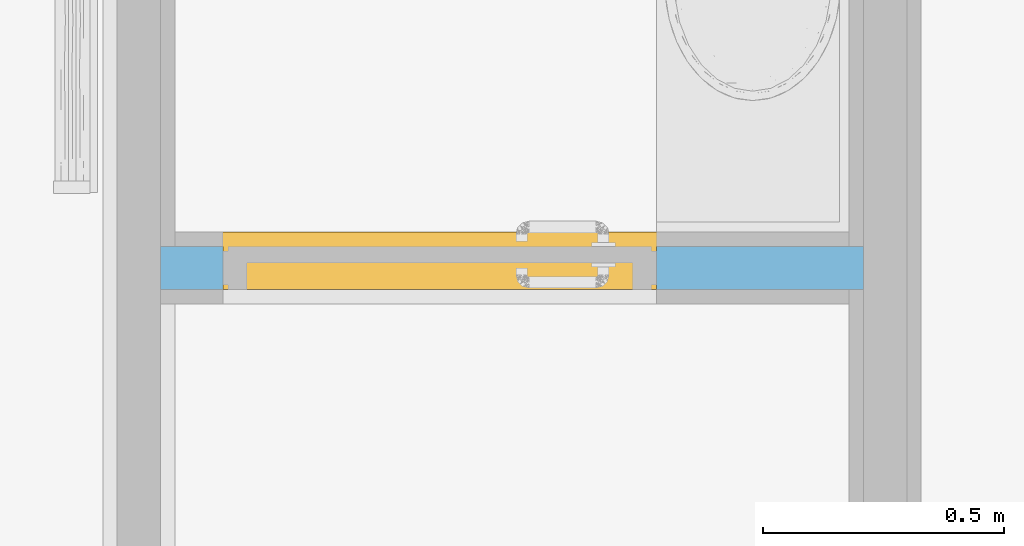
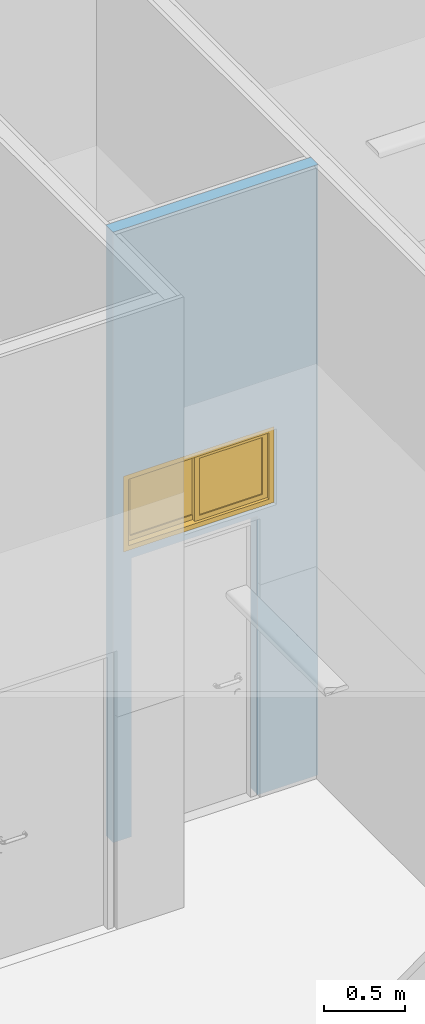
# One storey, part 23 of 155: 1 window, 2 openings, plus 1 element that does not belong to this part.
"""IFC2X3 building model written with IfcOpenShell, lengths in metres."""

from ifc_helpers import new_model, entity, si_unit, converted_unit, derived_unit, direction, frame, frame_2d, origin, origin_2d_with_axis, place, context, subcontext, project, spatial, polyline, rectangle, outline, extrude, source, transform, mapped, material, material_list, layer, layer_set, layer_usage, type_object, type_shapes, element, fill, save


model = new_model("IFC2X3")

# Units and contexts
model_context = context("Model", 3, precision=1e-05, world=origin(), true_north=direction((6.12303176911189e-17, 1.0)))
body_context = subcontext(model_context, "Body", "Model", "MODEL_VIEW")
ifc_project = project(units=[si_unit("LENGTHUNIT", "METRE"), si_unit("AREAUNIT", "SQUARE_METRE"), si_unit("VOLUMEUNIT", "CUBIC_METRE"), converted_unit("PLANEANGLEUNIT", "DEGREE", entity("IfcRatioMeasure", 0.0174532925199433), si_unit("PLANEANGLEUNIT", "RADIAN"), dimensions=[0, 0, 0, 0, 0, 0, 0]), si_unit("MASSUNIT", "GRAM", prefix="KILO"), derived_unit("MASSDENSITYUNIT", [(si_unit("MASSUNIT", "GRAM", prefix="KILO"), 1), (si_unit("LENGTHUNIT", "METRE"), -3)]), si_unit("TIMEUNIT", "SECOND"), si_unit("FREQUENCYUNIT", "HERTZ"), si_unit("THERMODYNAMICTEMPERATUREUNIT", "DEGREE_CELSIUS"), derived_unit("THERMALTRANSMITTANCEUNIT", [(si_unit("MASSUNIT", "GRAM", prefix="KILO"), 1), (si_unit("THERMODYNAMICTEMPERATUREUNIT", "KELVIN"), -1), (si_unit("TIMEUNIT", "SECOND"), -3)]), derived_unit("VOLUMETRICFLOWRATEUNIT", [(si_unit("LENGTHUNIT", "METRE"), 3), (si_unit("TIMEUNIT", "SECOND"), -1)]), si_unit("ELECTRICCURRENTUNIT", "AMPERE"), si_unit("ELECTRICVOLTAGEUNIT", "VOLT"), si_unit("POWERUNIT", "WATT"), si_unit("FORCEUNIT", "NEWTON", prefix="KILO"), si_unit("ILLUMINANCEUNIT", "LUX"), si_unit("LUMINOUSFLUXUNIT", "LUMEN"), si_unit("LUMINOUSINTENSITYUNIT", "CANDELA"), derived_unit("USERDEFINED", [(si_unit("MASSUNIT", "GRAM", prefix="KILO"), -1), (si_unit("LENGTHUNIT", "METRE"), -2), (si_unit("TIMEUNIT", "SECOND"), 3), (si_unit("LUMINOUSFLUXUNIT", "LUMEN"), 1)]), derived_unit("LINEARVELOCITYUNIT", [(si_unit("LENGTHUNIT", "METRE"), 1), (si_unit("TIMEUNIT", "SECOND"), -1)]), si_unit("PRESSUREUNIT", "PASCAL"), derived_unit("USERDEFINED", [(si_unit("LENGTHUNIT", "METRE"), -2), (si_unit("MASSUNIT", "GRAM", prefix="KILO"), 1), (si_unit("TIMEUNIT", "SECOND"), -2)])], contexts=[model_context])

# Site, building, storey
site_placement = place(None, frame((26.9889013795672, -17.5624287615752, 0.0)))
site = spatial("IfcSite", under=ifc_project, at=site_placement, Name="Default", CompositionType="ELEMENT")
building_placement = place(site_placement, origin())
building = spatial("IfcBuilding", under=site, at=building_placement, Name="C. C. L. Monsenhor Antônio Sampaio", CompositionType="ELEMENT")
storey_placement = place(building_placement, frame((0.0, 0.0, 1.19999999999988)))
storey = spatial("IfcBuildingStorey", under=building, at=storey_placement, Name="Nível 1.2", CompositionType="ELEMENT", Elevation=1.19999999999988)

# Wall, openings, window
ifc_material_1 = material(Name="ALVENARIA")
ifc_layer = layer(ifc_material_1, 0.09)
ifc_layer_set = layer_set([ifc_layer], Name="Parede básica:ENucleo parede 15cm")
ifc_layer_usage = layer_usage(ifc_layer_set, "AXIS2", "POSITIVE", -0.045)
wall_type = type_object("IfcWallType", Name="Parede básica:ENucleo parede 15cm", PredefinedType="STANDARD", material=ifc_layer_set)
wall_placement = place(storey_placement, frame((2.29943400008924, -31.0880663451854, 0.0)))
wall = element("IfcWallStandardCase", 1, at=wall_placement, inside=storey, type_object=wall_type, material=ifc_layer_usage, Name="Parede básica:ENucleo parede 15cm", ObjectType="Parede básica:ENucleo parede 15cm", context=body_context, shape_type="SweptSolid", body=[
    extrude(rectangle(XDim=1.46001370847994, YDim=0.0899999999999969, at=frame_2d((0.730006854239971, 0.0), x_axis=(-1.0, 0.0))), origin(), (0.0, 0.0, 1.0), 4.60000000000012),
])
opening_1_placement = place(wall_placement, frame((0.129999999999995, -0.0450000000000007, 0.0)))
element("IfcOpeningElement", 2, at=opening_1_placement, cuts=wall, Name="Porta levantamento:90 x 211 AZUL:1", ObjectType="Opening", context=body_context, shape_type="SweptSolid", body=[
    extrude(rectangle(XDim=2.09999999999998, YDim=0.9, at=frame_2d((1.04999999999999, 0.45), x_axis=(1.0, 0.0))), frame((0.0, 0.0, 0.0), z_axis=(0.0, 1.0, 0.0), x_axis=(0.0, 0.0, 1.0)), (0.0, 0.0, 1.0), 0.09),
])
opening_2_placement = place(wall_placement, frame((0.0750068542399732, -0.0449999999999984, 2.165)))
opening_2 = element("IfcOpeningElement", 3, at=opening_2_placement, cuts=wall, Name="Janela 100x50:100 x 51.:1", ObjectType="Opening", context=body_context, shape_type="SweptSolid", body=[
    extrude(rectangle(XDim=0.570000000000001, YDim=1.07, at=frame_2d((0.285000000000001, 0.534999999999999), x_axis=(1.0, 0.0))), frame((0.0, 0.0, 0.0), z_axis=(0.0, 1.0, 0.0), x_axis=(0.0, 0.0, 1.0)), (0.0, 0.0, 1.0), 0.09),
])
ifc_material_2 = material(Name="VIDRO COMUM LISO VERDE")
ifc_material_3 = material(Name="ALUMÍNIO COM PINTURA ELETROSTÁTICA BRANCA")
ifc_material_list_1 = material_list([ifc_material_2, ifc_material_3])
ifc_material_list_2 = material_list([ifc_material_2, ifc_material_3])
window_style = type_object("IfcWindowStyle", Name="100 x 51.", ConstructionType="NOTDEFINED", OperationType="NOTDEFINED", ParameterTakesPrecedence=False, Sizeable=False, material=ifc_material_list_2)
shared_shape = source(origin(), body_context, "Body", "SweptSolid", [
    extrude(rectangle(XDim=0.00599999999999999, YDim=0.4475, at=origin_2d_with_axis()), frame((0.293749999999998, 0.0583758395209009, 0.0699999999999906), z_axis=(0.0, 0.0, 1.0), x_axis=(0.0, -1.0, 0.0)), (0.0, 0.0, 1.0), 0.43),
    extrude(outline(polyline([(-0.25875, -0.250000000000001), (0.25875, -0.250000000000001), (0.25875, 0.250000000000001), (-0.25875, 0.250000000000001), (-0.25875, -0.250000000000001)]), holes=[polyline([(-0.22375, -0.215000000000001), (-0.22375, 0.215), (0.22375, 0.215), (0.22375, -0.215000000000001), (-0.22375, -0.215000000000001)])]), frame((0.293749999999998, 0.0458758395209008, 0.284999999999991), z_axis=(0.0, 1.0, 0.0), x_axis=(1.0, 0.0, 0.0)), (0.0, 0.0, 1.0), 0.025),
    extrude(rectangle(XDim=0.4475, YDim=0.00599999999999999, at=origin_2d_with_axis()), frame((0.77625, 0.0333758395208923, 0.0699999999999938), z_axis=(0.0, 0.0, 1.0), x_axis=(-1.0, 0.0, 0.0)), (0.0, 0.0, 1.0), 0.43),
    extrude(outline(polyline([(-0.250000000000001, -0.25875), (0.250000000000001, -0.25875), (0.250000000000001, 0.25875), (-0.250000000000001, 0.25875), (-0.250000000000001, -0.25875)]), holes=[polyline([(-0.215000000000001, -0.22375), (-0.215000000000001, 0.22375), (0.215000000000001, 0.22375), (0.215000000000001, -0.22375), (-0.215000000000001, -0.22375)])]), frame((0.77625, 0.0208758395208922, 0.284999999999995), z_axis=(0.0, 1.0, 0.0), x_axis=(0.0, 0.0, -1.0)), (0.0, 0.0, 1.0), 0.025),
    extrude(rectangle(XDim=0.09, YDim=1.07, at=origin_2d_with_axis()), frame((0.534999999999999, 0.045, 0.0), z_axis=(0.0, 0.0, 1.0), x_axis=(0.0, -1.0, 0.0)), (0.0, 0.0, 1.0), 0.0349999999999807),
    extrude(rectangle(XDim=0.12, YDim=0.0349999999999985, at=origin_2d_with_axis()), frame((1.0525, 0.06, 0.0349999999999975), z_axis=(0.0, 0.0, 1.0), x_axis=(0.0, -1.0, 0.0)), (0.0, 0.0, 1.0), 0.500000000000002),
    extrude(rectangle(XDim=0.12, YDim=0.0350000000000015, at=origin_2d_with_axis()), frame((0.017499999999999, 0.06, 0.0349999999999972), z_axis=(0.0, 0.0, 1.0), x_axis=(0.0, -1.0, 0.0)), (0.0, 0.0, 1.0), 0.500000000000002),
    extrude(rectangle(XDim=0.12, YDim=1.07, at=origin_2d_with_axis()), frame((0.534999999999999, 0.06, 0.534999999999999), z_axis=(0.0, 0.0, 1.0), x_axis=(0.0, -1.0, 0.0)), (0.0, 0.0, 1.0), 0.0350000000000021),
])
type_shapes(window_style, [shared_shape])
window_placement = place(opening_2_placement, origin())
window = element("IfcWindow", 4, at=window_placement, inside=storey, type_object=window_style, material=ifc_material_list_1, Name="Janela 100x50:100 x 51.", ObjectType="100 x 51.", OverallHeight=0.570000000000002, OverallWidth=1.07, context=body_context, shape_type="MappedRepresentation", body=[
    mapped(shared_shape, transform((0.0, 0.0, 0.0), scale=1.0)),
])
fill(opening_2, window)

save(model, "model.ifc")
